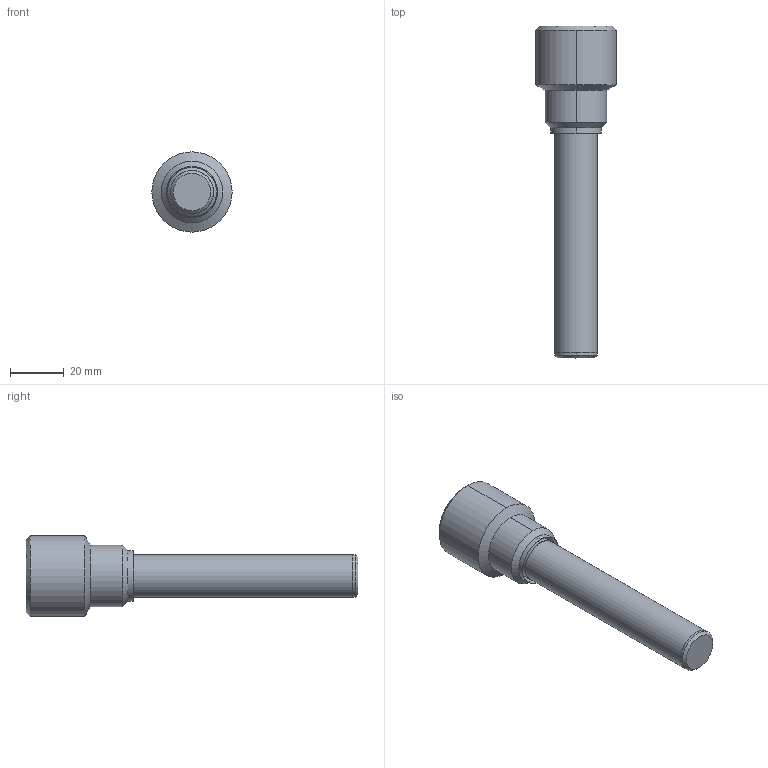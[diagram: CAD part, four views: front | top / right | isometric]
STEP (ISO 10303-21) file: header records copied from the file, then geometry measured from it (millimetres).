
FILE_DESCRIPTION(('TFLEX Exchange Step'),'2;1');
FILE_NAME('_Гильза ГЗ202-d10-P16-(M20)-H-M01.stp', '2020-10-06T20:29:52+05:00',('Алексей'),('Unknown organisation'),'TFLEX Exchange 2019.1','T-FLEX CAD','Unknown authorisation');
FILE_SCHEMA( ('AUTOMOTIVE_DESIGN { 1 0 10303 214 1 1 1 1 }') );
Length unit declared in the file: millimetre
Products named in the file (4): Труба Т-16х1.5-L-01; Штуцер Ш-20х1.5-02; Заглушка З-16х1.5-01; _Гильза ГЗ202-d10-P16-(M20)-H-M01
Assembly tree (3 placements, depth 2):
  _Гильза ГЗ202-d10-P16-(M20)-H-M01
    Труба Т-16х1.5-L-01
    Штуцер Ш-20х1.5-02
    Заглушка З-16х1.5-01
Bounding box: 30 x 124 x 30 mm (x, y, z)
Volume: 20562.5 mm3; surface area: 15129 mm2
Topology: 3 solids, 3 shells, 33 faces, 69 edges, 40 vertices
Faces by surface type: cylinder 18, plane 8, cone 7
Full cylindrical faces by diameter (mm): 13 x1, 16 x1
Entity records: 1000 total; most frequent: DIRECTION 191, CARTESIAN_POINT 153, ORIENTED_EDGE 142, AXIS2_PLACEMENT_3D 80, EDGE_CURVE 71, VERTEX_POINT 42, CIRCLE 40, EDGE_LOOP 35
